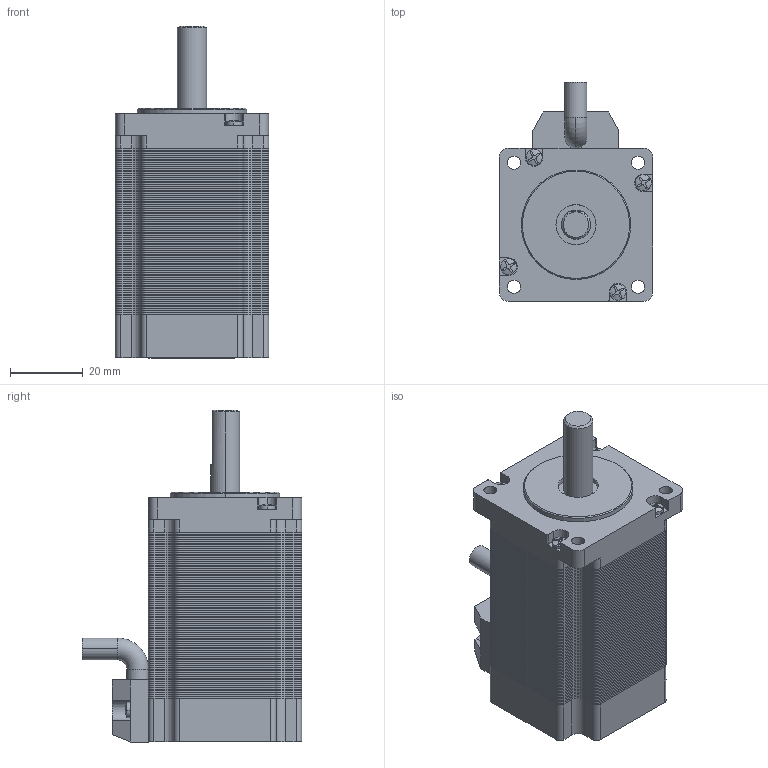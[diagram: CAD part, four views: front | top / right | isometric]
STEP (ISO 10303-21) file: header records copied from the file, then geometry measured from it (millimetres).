
FILE_DESCRIPTION (( 'STEP AP203' ), '1' );
FILE_NAME ('SMH1705.STEP', '2020-05-23T06:17:20', ( 'Windows' ), ( 'Microsoft' ), 'SwSTEP 2.0', 'SolidWorks 2016', '' );
FILE_SCHEMA (( 'CONFIG_CONTROL_DESIGN' ));
Length unit declared in the file: millimetre
Products named in the file (1): SMH1705
Bounding box: 42 x 60.15 x 91 mm (x, y, z)
Volume: 111485.6 mm3; surface area: 306400.1 mm2
Topology: 94 solids, 94 shells, 2659 faces, 7348 edges, 4885 vertices
Faces by surface type: plane 1422, cylinder 1206, cone 15, sphere 12, torus 4
Entity records: 85332 total; most frequent: DIRECTION 15137, CARTESIAN_POINT 15029, ORIENTED_EDGE 14680, EDGE_CURVE 7340, AXIS2_PLACEMENT_3D 5167, VERTEX_POINT 4885, LINE 4803, VECTOR 4803
